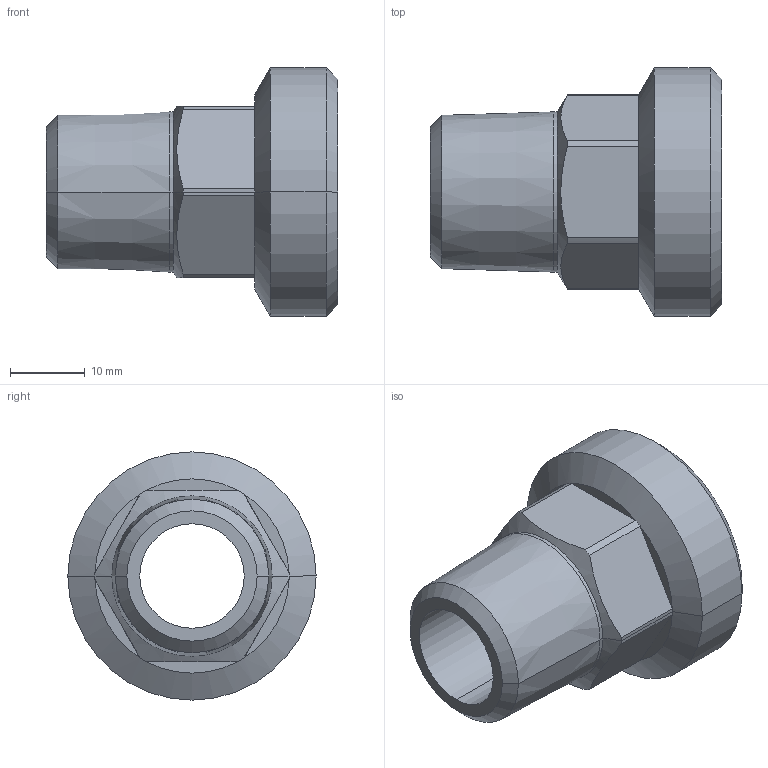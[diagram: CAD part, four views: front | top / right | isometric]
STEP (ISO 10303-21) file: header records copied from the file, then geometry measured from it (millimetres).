
FILE_DESCRIPTION((''),'2;1');
FILE_NAME('G:\BIR\Pajchrowski\projekty\8000 models\4376g\4376g STEP\14376_12-1.stp','2006-04-28T11:33:14',('pajchrowski'),(''),'Autodesk Inventor 8','Autodesk Inventor 8','');
FILE_SCHEMA(('AUTOMOTIVE_DESIGN { 1 0 10303 214 1 1 1 1 }'));
Length unit declared in the file: millimetre
Products named in the file (1): 14376_12-1
Bounding box: 39 x 33.25 x 33.25 mm (x, y, z)
Volume: 10842 mm3; surface area: 6121.1 mm2
Topology: 1 solids, 1 shells, 48 faces, 116 edges, 70 vertices
Faces by surface type: cylinder 18, cone 16, plane 14
Entity records: 1417 total; most frequent: DIRECTION 260, CARTESIAN_POINT 247, ORIENTED_EDGE 232, EDGE_CURVE 116, AXIS2_PLACEMENT_3D 101, VERTEX_POINT 70, VECTOR 58, LINE 58
